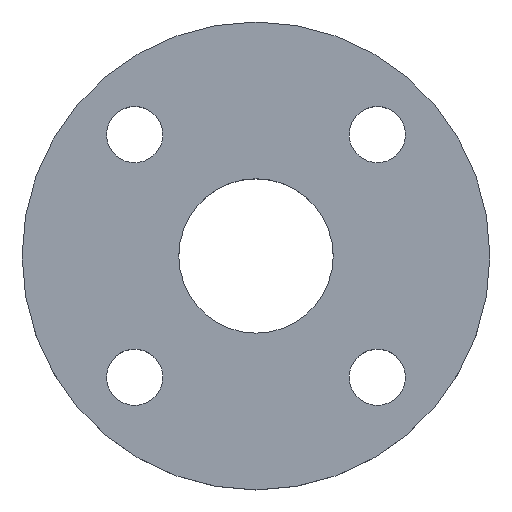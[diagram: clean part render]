
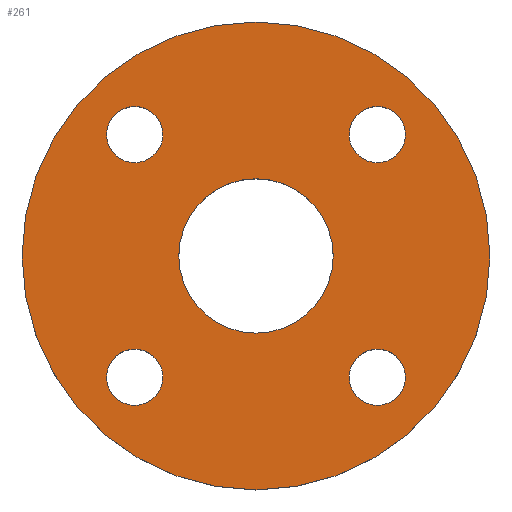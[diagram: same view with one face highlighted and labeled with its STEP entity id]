
A CAD part, top view. The second image highlights one B-rep face of the part: STEP entity #261.
In plain terms, the highlighted planar face has unit normal (0, 0, 1).
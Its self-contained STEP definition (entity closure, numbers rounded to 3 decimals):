
#5 = CIRCLE ( 'NONE', #218, 75. ) ;
#11 = EDGE_CURVE ( 'NONE', #418, #273, #78, .T. ) ;
#21 = CARTESIAN_POINT ( 'NONE',  ( -38.891, -38.891, 0. ) ) ;
#23 = CIRCLE ( 'NONE', #583, 75. ) ;
#25 = EDGE_CURVE ( 'NONE', #437, #429, #5, .T. ) ;
#36 = AXIS2_PLACEMENT_3D ( 'NONE', #21, #563, #564 ) ;
#38 = CARTESIAN_POINT ( 'NONE',  ( 0., 0., 0. ) ) ;
#59 = AXIS2_PLACEMENT_3D ( 'NONE', #630, #631, #633 ) ;
#62 = AXIS2_PLACEMENT_3D ( 'NONE', #624, #625, #627 ) ;
#64 = CIRCLE ( 'NONE', #62, 9. ) ;
#75 = EDGE_CURVE ( 'NONE', #428, #289, #640, .T. ) ;
#76 = CIRCLE ( 'NONE', #59, 9. ) ;
#78 = CIRCLE ( 'NONE', #347, 9. ) ;
#79 = AXIS2_PLACEMENT_3D ( 'NONE', #604, #605, #606 ) ;
#84 = DIRECTION ( 'NONE',  ( -1., 0., 0. ) ) ;
#92 = DIRECTION ( 'NONE',  ( 0., 0., -1. ) ) ;
#93 = CARTESIAN_POINT ( 'NONE',  ( -38.891, 38.891, 0. ) ) ;
#99 = CIRCLE ( 'NONE', #101, 24.75 ) ;
#101 = AXIS2_PLACEMENT_3D ( 'NONE', #589, #590, #592 ) ;
#107 = CIRCLE ( 'NONE', #36, 9. ) ;
#128 = CARTESIAN_POINT ( 'NONE',  ( -47.891, -38.891, 0. ) ) ;
#131 = CARTESIAN_POINT ( 'NONE',  ( -29.891, 38.891, 0. ) ) ;
#133 = CARTESIAN_POINT ( 'NONE',  ( -47.891, 38.891, 0. ) ) ;
#143 = CARTESIAN_POINT ( 'NONE',  ( 29.891, 38.891, 0. ) ) ;
#146 = CIRCLE ( 'NONE', #207, 9. ) ;
#151 = AXIS2_PLACEMENT_3D ( 'NONE', #485, #486, #487 ) ;
#152 = CARTESIAN_POINT ( 'NONE',  ( 47.891, -38.891, 0. ) ) ;
#153 = CARTESIAN_POINT ( 'NONE',  ( 75., 0., 0. ) ) ;
#159 = EDGE_CURVE ( 'NONE', #429, #437, #23, .T. ) ;
#163 = CIRCLE ( 'NONE', #228, 9. ) ;
#168 = CARTESIAN_POINT ( 'NONE',  ( -75., 0., 0. ) ) ;
#171 = CARTESIAN_POINT ( 'NONE',  ( -24.75, 0., 0. ) ) ;
#181 = CARTESIAN_POINT ( 'NONE',  ( -38.891, 38.891, 0. ) ) ;
#183 = DIRECTION ( 'NONE',  ( 0., 0., -1. ) ) ;
#184 = DIRECTION ( 'NONE',  ( -1., 0., 0. ) ) ;
#202 = CIRCLE ( 'NONE', #358, 24.75 ) ;
#207 = AXIS2_PLACEMENT_3D ( 'NONE', #181, #183, #184 ) ;
#218 = AXIS2_PLACEMENT_3D ( 'NONE', #465, #466, #467 ) ;
#220 = EDGE_CURVE ( 'NONE', #279, #319, #107, .T. ) ;
#222 = EDGE_CURVE ( 'NONE', #273, #418, #496, .T. ) ;
#228 = AXIS2_PLACEMENT_3D ( 'NONE', #93, #92, #84 ) ;
#239 = DIRECTION ( 'NONE',  ( 0., 0., 1. ) ) ;
#259 = EDGE_CURVE ( 'NONE', #278, #440, #99, .T. ) ;
#261 = ADVANCED_FACE ( 'NONE', ( #596, #597, #598, #599, #601, #602 ), #603, .T. ) ;
#265 = EDGE_LOOP ( 'NONE', ( #352, #354 ) ) ;
#273 = VERTEX_POINT ( 'NONE', #610 ) ;
#278 = VERTEX_POINT ( 'NONE', #612 ) ;
#279 = VERTEX_POINT ( 'NONE', #613 ) ;
#285 = EDGE_CURVE ( 'NONE', #289, #428, #64, .T. ) ;
#286 = EDGE_LOOP ( 'NONE', ( #366, #370 ) ) ;
#289 = VERTEX_POINT ( 'NONE', #628 ) ;
#297 = EDGE_CURVE ( 'NONE', #319, #279, #76, .T. ) ;
#314 = EDGE_LOOP ( 'NONE', ( #362, #363 ) ) ;
#319 = VERTEX_POINT ( 'NONE', #128 ) ;
#328 = AXIS2_PLACEMENT_3D ( 'NONE', #565, #566, #567 ) ;
#347 = AXIS2_PLACEMENT_3D ( 'NONE', #462, #463, #464 ) ;
#352 = ORIENTED_EDGE ( 'NONE', *, *, #75, .T. ) ;
#353 = VERTEX_POINT ( 'NONE', #131 ) ;
#354 = ORIENTED_EDGE ( 'NONE', *, *, #285, .T. ) ;
#355 = EDGE_LOOP ( 'NONE', ( #356, #357 ) ) ;
#356 = ORIENTED_EDGE ( 'NONE', *, *, #220, .T. ) ;
#357 = ORIENTED_EDGE ( 'NONE', *, *, #297, .T. ) ;
#358 = AXIS2_PLACEMENT_3D ( 'NONE', #38, #239, #533 ) ;
#359 = ORIENTED_EDGE ( 'NONE', *, *, #571, .T. ) ;
#361 = ORIENTED_EDGE ( 'NONE', *, *, #472, .T. ) ;
#362 = ORIENTED_EDGE ( 'NONE', *, *, #222, .T. ) ;
#363 = ORIENTED_EDGE ( 'NONE', *, *, #11, .T. ) ;
#364 = ORIENTED_EDGE ( 'NONE', *, *, #259, .F. ) ;
#365 = ORIENTED_EDGE ( 'NONE', *, *, #540, .F. ) ;
#366 = ORIENTED_EDGE ( 'NONE', *, *, #159, .T. ) ;
#370 = ORIENTED_EDGE ( 'NONE', *, *, #25, .T. ) ;
#388 = EDGE_LOOP ( 'NONE', ( #364, #365 ) ) ;
#389 = VERTEX_POINT ( 'NONE', #133 ) ;
#418 = VERTEX_POINT ( 'NONE', #143 ) ;
#428 = VERTEX_POINT ( 'NONE', #152 ) ;
#429 = VERTEX_POINT ( 'NONE', #153 ) ;
#434 = EDGE_LOOP ( 'NONE', ( #359, #361 ) ) ;
#437 = VERTEX_POINT ( 'NONE', #168 ) ;
#440 = VERTEX_POINT ( 'NONE', #171 ) ;
#462 = CARTESIAN_POINT ( 'NONE',  ( 38.891, 38.891, 0. ) ) ;
#463 = DIRECTION ( 'NONE',  ( 0., 0., -1. ) ) ;
#464 = DIRECTION ( 'NONE',  ( -1., 0., 0. ) ) ;
#465 = CARTESIAN_POINT ( 'NONE',  ( 0., 0., 0. ) ) ;
#466 = DIRECTION ( 'NONE',  ( 0., 0., 1. ) ) ;
#467 = DIRECTION ( 'NONE',  ( 1., 0., 0. ) ) ;
#472 = EDGE_CURVE ( 'NONE', #389, #353, #146, .T. ) ;
#485 = CARTESIAN_POINT ( 'NONE',  ( 38.891, -38.891, 0. ) ) ;
#486 = DIRECTION ( 'NONE',  ( 0., 0., -1. ) ) ;
#487 = DIRECTION ( 'NONE',  ( -1., 0., 0. ) ) ;
#496 = CIRCLE ( 'NONE', #328, 9. ) ;
#528 = CARTESIAN_POINT ( 'NONE',  ( 0., 0., 0. ) ) ;
#529 = DIRECTION ( 'NONE',  ( 0., 0., 1. ) ) ;
#530 = DIRECTION ( 'NONE',  ( 1., 0., 0. ) ) ;
#533 = DIRECTION ( 'NONE',  ( 1., 0., 0. ) ) ;
#540 = EDGE_CURVE ( 'NONE', #440, #278, #202, .T. ) ;
#563 = DIRECTION ( 'NONE',  ( 0., 0., -1. ) ) ;
#564 = DIRECTION ( 'NONE',  ( -1., 0., 0. ) ) ;
#565 = CARTESIAN_POINT ( 'NONE',  ( 38.891, 38.891, 0. ) ) ;
#566 = DIRECTION ( 'NONE',  ( 0., 0., -1. ) ) ;
#567 = DIRECTION ( 'NONE',  ( -1., 0., 0. ) ) ;
#571 = EDGE_CURVE ( 'NONE', #353, #389, #163, .T. ) ;
#583 = AXIS2_PLACEMENT_3D ( 'NONE', #528, #529, #530 ) ;
#589 = CARTESIAN_POINT ( 'NONE',  ( 0., 0., 0. ) ) ;
#590 = DIRECTION ( 'NONE',  ( 0., 0., 1. ) ) ;
#592 = DIRECTION ( 'NONE',  ( 1., 0., 0. ) ) ;
#596 = FACE_BOUND ( 'NONE', #265, .T. ) ;
#597 = FACE_BOUND ( 'NONE', #355, .T. ) ;
#598 = FACE_BOUND ( 'NONE', #434, .T. ) ;
#599 = FACE_BOUND ( 'NONE', #314, .T. ) ;
#601 = FACE_BOUND ( 'NONE', #388, .T. ) ;
#602 = FACE_OUTER_BOUND ( 'NONE', #286, .T. ) ;
#603 = PLANE ( 'NONE',  #79 ) ;
#604 = CARTESIAN_POINT ( 'NONE',  ( 0., 0., 0. ) ) ;
#605 = DIRECTION ( 'NONE',  ( 0., 0., 1. ) ) ;
#606 = DIRECTION ( 'NONE',  ( 1., 0., 0. ) ) ;
#610 = CARTESIAN_POINT ( 'NONE',  ( 47.891, 38.891, 0. ) ) ;
#612 = CARTESIAN_POINT ( 'NONE',  ( 24.75, 0., 0. ) ) ;
#613 = CARTESIAN_POINT ( 'NONE',  ( -29.891, -38.891, 0. ) ) ;
#624 = CARTESIAN_POINT ( 'NONE',  ( 38.891, -38.891, 0. ) ) ;
#625 = DIRECTION ( 'NONE',  ( 0., 0., -1. ) ) ;
#627 = DIRECTION ( 'NONE',  ( -1., 0., 0. ) ) ;
#628 = CARTESIAN_POINT ( 'NONE',  ( 29.891, -38.891, 0. ) ) ;
#630 = CARTESIAN_POINT ( 'NONE',  ( -38.891, -38.891, 0. ) ) ;
#631 = DIRECTION ( 'NONE',  ( 0., 0., -1. ) ) ;
#633 = DIRECTION ( 'NONE',  ( -1., 0., 0. ) ) ;
#640 = CIRCLE ( 'NONE', #151, 9. ) ;
